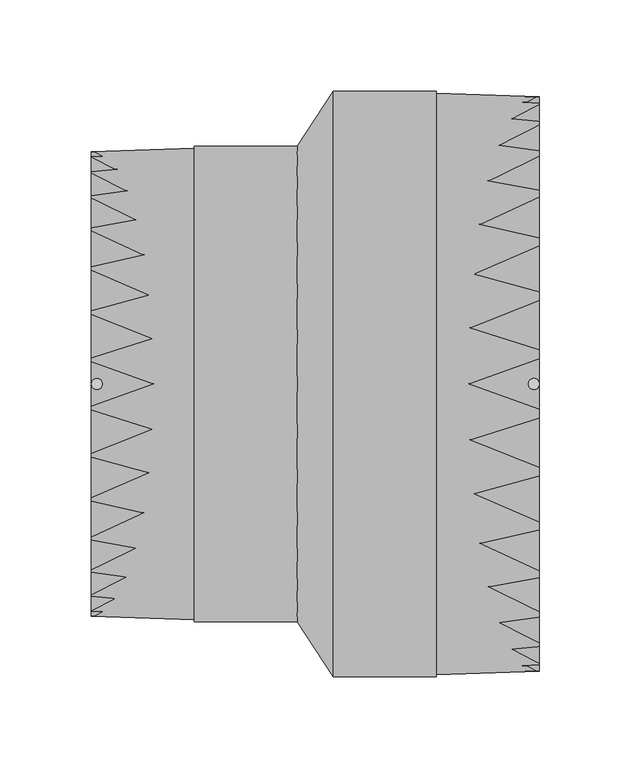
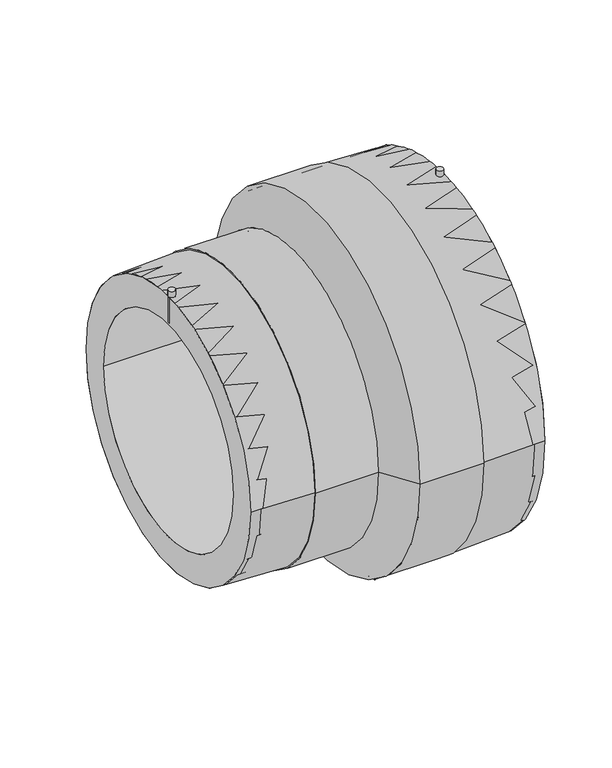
"""IFC4 building model written with IfcOpenShell, lengths in millimetres: pipe fitting geometry, EGB_VASEN_ PPR_Manguito reductor electrosoldable WXRD110 : Manguito reductor electrosoldable WXRD110."""

from ifc_helpers import new_model, si_unit, point, frame, frame_2d, origin, origin_2d, place, context, project, spatial, polyline, circle_curve, trimmed, segment, composite_curve, outline, extrude, source, transform, mapped, element, save
from ifc_brep_helpers import plane_surface, cylinder_surface, revolved_surface, advanced_brep


def pipe_fitting_2c2e2474(model_context):
    return source(origin(), model_context, "Body", "SolidModel", [
        extrude(outline(composite_curve([segment(trimmed(circle_curve(frame_2d((119.5, 0.0)), 3.0), [point((116.5, 0.0))], [point((122.5, 0.0))], False, "CARTESIAN"), True, "CONTINUOUS"), segment(trimmed(circle_curve(frame_2d((119.5, 0.0)), 3.0), [point((122.5, 0.0))], [point((116.5, 0.0))], False, "CARTESIAN"), True, "CONTINUOUS")], self_intersect=False)), frame((0.0, 0.0, 127.0), z_axis=(0.0, 0.0, 1.0), x_axis=(1.0, 0.0, 0.0)), (0.0, 0.0, 1.0), 35.0),
        extrude(outline(composite_curve([segment(trimmed(circle_curve(frame_2d((-119.5, 0.0)), 3.0), [point((-122.5, 0.0))], [point((-116.5, 0.0))], False, "CARTESIAN"), True, "CONTINUOUS"), segment(trimmed(circle_curve(frame_2d((-119.5, 0.0)), 3.0), [point((-116.5, 0.0))], [point((-122.5, 0.0))], False, "CARTESIAN"), True, "CONTINUOUS")], self_intersect=False)), frame((0.0, 0.0, 102.0), z_axis=(0.0, 0.0, 1.0), x_axis=(1.0, 0.0, 0.0)), (0.0, 0.0, 1.0), 30.0),
        extrude(outline(composite_curve([segment(trimmed(circle_curve(origin_2d(), 157.0), [point((-157.0, 0.0))], [point((157.0, 0.0))], False, "CARTESIAN"), True, "CONTINUOUS"), segment(trimmed(circle_curve(origin_2d(), 157.0), [point((157.0, 0.0))], [point((-157.0, 0.0))], False, "CARTESIAN"), True, "CONTINUOUS")], self_intersect=False), holes=[composite_curve([segment(trimmed(circle_curve(origin_2d(), 125.0), [point((-125.0, 0.0))], [point((125.0, 0.0))], True, "CARTESIAN"), True, "CONTINUOUS"), segment(trimmed(circle_curve(origin_2d(), 125.0), [point((125.0, 0.0))], [point((-125.0, 0.0))], True, "CARTESIAN"), True, "CONTINUOUS")], self_intersect=False)]), frame((9.8, 0.0, 0.0), z_axis=(1.0, 0.0, 0.0), x_axis=(0.0, 1.0, 0.0)), (0.0, 0.0, 1.0), 112.7),
        extrude(outline(composite_curve([segment(trimmed(circle_curve(origin_2d(), 127.0), [point((-127.0, 0.0))], [point((127.0, 0.0))], False, "CARTESIAN"), True, "CONTINUOUS"), segment(trimmed(circle_curve(origin_2d(), 127.0), [point((127.0, 0.0))], [point((-127.0, 0.0))], False, "CARTESIAN"), True, "CONTINUOUS")], self_intersect=False), holes=[composite_curve([segment(trimmed(circle_curve(origin_2d(), 100.0), [point((-100.0, 0.0))], [point((100.0, 0.0))], True, "CARTESIAN"), True, "CONTINUOUS"), segment(trimmed(circle_curve(origin_2d(), 100.0), [point((100.0, 0.0))], [point((-100.0, 0.0))], True, "CARTESIAN"), True, "CONTINUOUS")], self_intersect=False)]), frame((-122.5, 0.0, 0.0), z_axis=(1.0, 0.0, 0.0), x_axis=(0.0, 1.0, 0.0)), (0.0, 0.0, 1.0), 112.7),
        advanced_brep(
        [(9.8, -157.0, 0.0), (9.8, 157.0, 0.0), (-9.8, -127.0, 0.0), (-9.8, 127.0, 0.0)],
        [
            (0, 1, circle_curve(frame((9.8, 0.0, 0.0), z_axis=(1.0, 0.0, 0.0), x_axis=(0.0, -1.0, 0.0)), 157.0)),
            (1, 0, circle_curve(frame((9.8, 0.0, 0.0), z_axis=(1.0, 0.0, 0.0), x_axis=(0.0, 1.0, 0.0)), 157.0)),
            (2, 3, circle_curve(frame((-9.8, 0.0, 0.0), z_axis=(-1.0, 0.0, 0.0), x_axis=(0.0, 1.0, 0.0)), 127.0)),
            (3, 2, circle_curve(frame((-9.8, 0.0, 0.0), z_axis=(-1.0, 0.0, 0.0), x_axis=(0.0, -1.0, 0.0)), 127.0)),
            (3, 1),
            (0, 2),
        ],
        [
            plane_surface(frame((9.8, 0.0, 0.0), z_axis=(1.0, 0.0, 0.0), x_axis=(0.0, 0.0, -1.0))),
            plane_surface(frame((-9.8, 0.0, 0.0), z_axis=(-1.0, 0.0, 0.0), x_axis=(0.0, 0.0, -1.0))),
            revolved_surface(polyline([(-9.799999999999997, 126.99999999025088, 0.0), (9.799999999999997, 157.0, 0.0)]), (-92.7733333, 0.0, 0.0), (1.0, 0.0, 0.0)),
            revolved_surface(polyline([(-9.799999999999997, -126.99999999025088, 0.0), (9.799999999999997, -157.0, 0.0)]), (-92.7733333, 0.0, 0.0), (1.0, 0.0, 0.0)),
        ],
        [
            (0, [[1, 2]]),
            (1, [[3, 4]]),
            (2, [[-4, 5, -1, 6]]),
            (3, [[-3, -6, -2, -5]]),
        ],
    ),
        advanced_brep(
        [(9.8, -157.0, 0.0), (9.8, 157.0, 0.0), (-9.8, 127.0, 0.0), (-9.8, -127.0, 0.0), (122.5, -157.0, 0.0), (122.5, 157.0, 0.0), (66.15, -159.0, 0.0), (66.15, 159.0, 0.0), (66.15, -160.0, 0.0), (66.15, 160.0, 0.0), (9.8, -160.0, 0.0), (9.8, 160.0, 0.0), (-9.8, -130.0, 0.0), (-9.8, 130.0, 0.0), (-66.15, -130.0, 0.0), (-66.15, 130.0, 0.0), (-66.15, -129.0, 0.0), (-66.15, 129.0, 0.0), (-122.5, -127.0, 0.0), (-122.5, 127.0, 0.0)],
        [
            (0, 1, circle_curve(frame((9.8, 0.0, 0.0), z_axis=(1.0, 0.0, 0.0), x_axis=(0.0, 1.0, 0.0)), 157.0)),
            (1, 2),
            (2, 3, circle_curve(frame((-9.8, 0.0, 0.0), z_axis=(-1.0, 0.0, 0.0), x_axis=(0.0, 1.0, 0.0)), 127.0)),
            (3, 0),
            (1, 0, circle_curve(frame((9.8, 0.0, 0.0), z_axis=(1.0, 0.0, 0.0), x_axis=(0.0, 1.0, 0.0)), 157.0)),
            (3, 2, circle_curve(frame((-9.8, 0.0, 0.0), z_axis=(-1.0, 0.0, 0.0), x_axis=(0.0, 1.0, 0.0)), 127.0)),
            (4, 5, circle_curve(frame((122.5, 0.0, 0.0), z_axis=(1.0, 0.0, 0.0), x_axis=(0.0, 1.0, 0.0)), 157.0)),
            (5, 1),
            (0, 4),
            (5, 4, circle_curve(frame((122.5, 0.0, 0.0), z_axis=(1.0, 0.0, 0.0), x_axis=(0.0, 1.0, 0.0)), 157.0)),
            (6, 7, circle_curve(frame((66.15, 0.0, 0.0), z_axis=(1.0, 0.0, 0.0), x_axis=(0.0, 1.0, 0.0)), 159.0)),
            (7, 5),
            (4, 6),
            (7, 6, circle_curve(frame((66.15, 0.0, 0.0), z_axis=(1.0, 0.0, 0.0), x_axis=(0.0, 1.0, 0.0)), 159.0)),
            (8, 9, circle_curve(frame((66.15, 0.0, 0.0), z_axis=(1.0, 0.0, 0.0), x_axis=(0.0, 1.0, 0.0)), 160.0)),
            (9, 7),
            (6, 8),
            (9, 8, circle_curve(frame((66.15, 0.0, 0.0), z_axis=(1.0, 0.0, 0.0), x_axis=(0.0, 1.0, 0.0)), 160.0)),
            (10, 11, circle_curve(frame((9.8, 0.0, 0.0), z_axis=(1.0, 0.0, 0.0), x_axis=(0.0, 1.0, 0.0)), 160.0)),
            (11, 9),
            (8, 10),
            (11, 10, circle_curve(frame((9.8, 0.0, 0.0), z_axis=(1.0, 0.0, 0.0), x_axis=(0.0, 1.0, 0.0)), 160.0)),
            (12, 13, circle_curve(frame((-9.8, 0.0, 0.0), z_axis=(1.0, 0.0, 0.0), x_axis=(0.0, 1.0, 0.0)), 130.0)),
            (13, 11),
            (10, 12),
            (13, 12, circle_curve(frame((-9.8, 0.0, 0.0), z_axis=(1.0, 0.0, 0.0), x_axis=(0.0, 1.0, 0.0)), 130.0)),
            (14, 15, circle_curve(frame((-66.15, 0.0, 0.0), z_axis=(1.0, 0.0, 0.0), x_axis=(0.0, 1.0, 0.0)), 130.0)),
            (15, 13),
            (12, 14),
            (15, 14, circle_curve(frame((-66.15, 0.0, 0.0), z_axis=(1.0, 0.0, 0.0), x_axis=(0.0, 1.0, 0.0)), 130.0)),
            (16, 17, circle_curve(frame((-66.15, 0.0, 0.0), z_axis=(1.0, 0.0, 0.0), x_axis=(0.0, 1.0, 0.0)), 129.0)),
            (17, 15),
            (14, 16),
            (17, 16, circle_curve(frame((-66.15, 0.0, 0.0), z_axis=(1.0, 0.0, 0.0), x_axis=(0.0, 1.0, 0.0)), 129.0)),
            (18, 19, circle_curve(frame((-122.5, 0.0, 0.0), z_axis=(1.0, 0.0, 0.0), x_axis=(0.0, 1.0, 0.0)), 127.0)),
            (19, 17),
            (16, 18),
            (19, 18, circle_curve(frame((-122.5, 0.0, 0.0), z_axis=(1.0, 0.0, 0.0), x_axis=(0.0, 1.0, 0.0)), 127.0)),
            (2, 19),
            (18, 3),
        ],
        [
            revolved_surface(polyline([(-9.8, 127.0, 0.0), (9.8, 157.0, 0.0)]), (-157.5, 0.0, 0.0), (-1.0, 0.0, 0.0)),
            revolved_surface(polyline([(9.800000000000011, 157.0, 0.0), (122.5, 157.0, 0.0)]), (-157.5, 0.0, 0.0), (-1.0, 0.0, 0.0)),
            revolved_surface(polyline([(122.5, 157.0, 0.0), (66.15, 159.0, 0.0)]), (-157.5, 0.0, 0.0), (-1.0, 0.0, 0.0)),
            plane_surface(frame((66.15, 0.0, 0.0), z_axis=(1.0, 0.0, 0.0), x_axis=(0.0, 1.0, 0.0))),
            cylinder_surface(frame((-157.5, 0.0, 0.0), z_axis=(-1.0, 0.0, 0.0), x_axis=(0.0, 1.0, 0.0)), 160.0),
            revolved_surface(polyline([(9.8, 160.0, 0.0), (-9.8, 130.0, 0.0)]), (-157.5, 0.0, 0.0), (-1.0, 0.0, 0.0)),
            cylinder_surface(frame((-157.5, 0.0, 0.0), z_axis=(-1.0, 0.0, 0.0), x_axis=(0.0, 1.0, 0.0)), 130.0),
            plane_surface(frame((-66.15, 0.0, 0.0), z_axis=(-1.0, 0.0, 0.0), x_axis=(0.0, 1.0, 0.0))),
            revolved_surface(polyline([(-66.15, 129.0, 0.0), (-122.5, 127.0, 0.0)]), (-157.5, 0.0, 0.0), (-1.0, 0.0, 0.0)),
            revolved_surface(polyline([(-122.5, 127.0, 0.0), (-9.800000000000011, 127.0, 0.0)]), (-157.5, 0.0, 0.0), (-1.0, 0.0, 0.0)),
        ],
        [
            (0, [[1, 2, 3, 4]]),
            (0, [[5, -4, 6, -2]]),
            (1, [[7, 8, -1, 9]]),
            (1, [[10, -9, -5, -8]]),
            (2, [[11, 12, -7, 13]]),
            (2, [[14, -13, -10, -12]]),
            (3, [[15, 16, -11, 17]]),
            (3, [[18, -17, -14, -16]]),
            (4, [[19, 20, -15, 21]]),
            (4, [[22, -21, -18, -20]]),
            (5, [[23, 24, -19, 25]]),
            (5, [[26, -25, -22, -24]]),
            (6, [[27, 28, -23, 29]]),
            (6, [[30, -29, -26, -28]]),
            (7, [[31, 32, -27, 33]]),
            (7, [[34, -33, -30, -32]]),
            (8, [[35, 36, -31, 37]]),
            (8, [[38, -37, -34, -36]]),
            (9, [[-3, 39, -35, 40]]),
            (9, [[-6, -40, -38, -39]]),
        ],
    ),
    ])


if __name__ == "__main__":
    model = new_model("IFC4")
    model_context = context("Model", 3, world=origin())
    ifc_project = project(units=[si_unit("LENGTHUNIT", "METRE", prefix="MILLI")], contexts=[model_context])
    site = spatial("IfcSite", under=ifc_project)
    building = spatial("IfcBuilding", under=site)
    placement = place(None, origin())
    pipe_fitting_shape = pipe_fitting_2c2e2474(model_context)
    element("IfcPipeFitting", 1, ObjectType="EGB_VASEN_ PPR_Manguito reductor electrosoldable WXRD110 : Manguito reductor electrosoldable WXRD110", at=placement, inside=building, context=model_context, shape_type="MappedRepresentation", body=[
        mapped(pipe_fitting_shape, transform((0.0, 0.0, 0.0), x_axis=(1.0, 0.0, 0.0), y_axis=(0.0, 1.0, 0.0), z_axis=(0.0, 0.0, 1.0))),
    ])
    save(model, "model.ifc")
